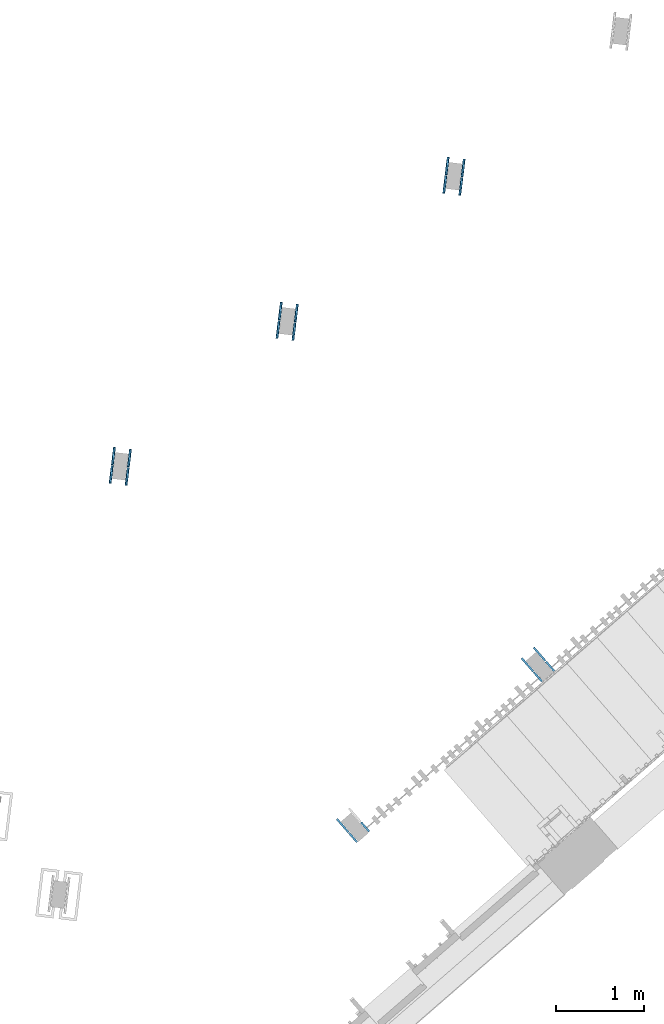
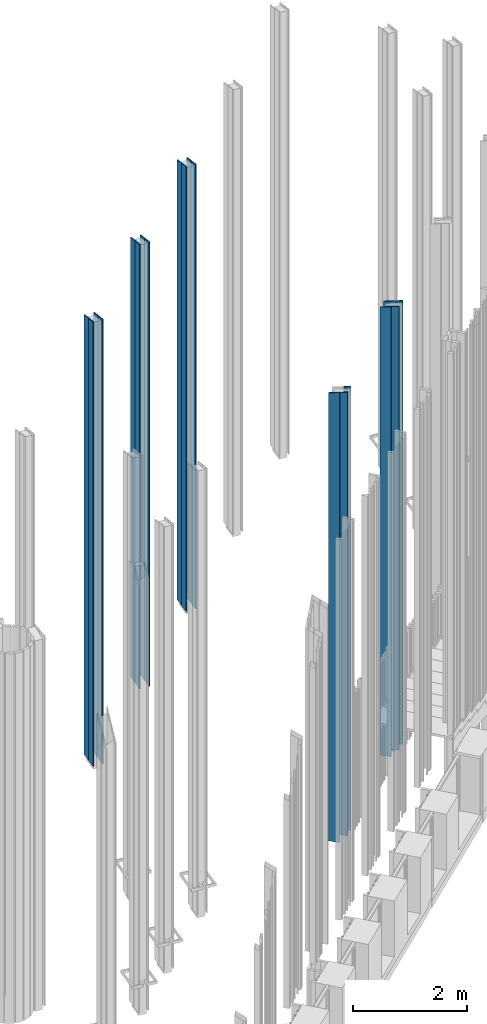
# One storey, part 48 of 390: 19 discrete accessories.
"""IFC2X3 building model written with IfcOpenShell, lengths in millimetres."""

from ifc_helpers import new_model, entity, si_unit, converted_unit, derived_unit, money_unit, direction, frame, origin_with_axes, place, context, subcontext, project, spatial, faceted_brep, source, transform, mapped, material, type_object, element, save


model = new_model("IFC2X3")

# Units and contexts
model_context = context("Model", 3, precision=1e-05, world=origin_with_axes(), true_north=direction((0.0, 1.0)))
body_context = subcontext(model_context, "Body", "Model", "MODEL_VIEW")
ifc_project = project(units=[si_unit("LENGTHUNIT", "METRE", prefix="MILLI"), si_unit("AREAUNIT", "SQUARE_METRE"), si_unit("VOLUMEUNIT", "CUBIC_METRE"), converted_unit("PLANEANGLEUNIT", "DEGREE", entity("IfcPlaneAngleMeasure", 0.0174532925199), si_unit("PLANEANGLEUNIT", "RADIAN"), dimensions=[0, 0, 0, 0, 0, 0, 0]), si_unit("SOLIDANGLEUNIT", "STERADIAN"), money_unit("EUR"), converted_unit("TIMEUNIT", "Year", entity("IfcTimeMeasure", 31556926.0), si_unit("TIMEUNIT", "SECOND"), dimensions=[0, 0, 1, 0, 0, 0, 0]), si_unit("MASSUNIT", "GRAM", prefix="KILO"), si_unit("THERMODYNAMICTEMPERATUREUNIT", "DEGREE_CELSIUS"), si_unit("LUMINOUSINTENSITYUNIT", "LUMEN"), si_unit("ENERGYUNIT", "JOULE", prefix="MEGA"), derived_unit("THERMALCONDUCTANCEUNIT", [(si_unit("POWERUNIT", "WATT"), 1), (si_unit("LENGTHUNIT", "METRE"), -1), (si_unit("THERMODYNAMICTEMPERATUREUNIT", "KELVIN"), -1)]), derived_unit("SPECIFICHEATCAPACITYUNIT", [(si_unit("ENERGYUNIT", "JOULE"), 1), (si_unit("MASSUNIT", "GRAM", prefix="KILO"), -1), (si_unit("THERMODYNAMICTEMPERATUREUNIT", "KELVIN"), -1)]), derived_unit("MASSDENSITYUNIT", [(si_unit("MASSUNIT", "GRAM", prefix="KILO"), 1), (si_unit("VOLUMEUNIT", "CUBIC_METRE"), -1)])], contexts=[model_context])

# Site, building, storey
site_placement = place(None, origin_with_axes())
site = spatial("IfcSite", under=ifc_project, at=site_placement, Name="Site", CompositionType="ELEMENT")
building_placement = place(site_placement, origin_with_axes())
building = spatial("IfcBuilding", under=site, at=building_placement, Name="Building", CompositionType="ELEMENT")
storey_placement = place(building_placement, origin_with_axes())
storey = spatial("IfcBuildingStorey", under=building, at=storey_placement, Name="1 korrus", CompositionType="ELEMENT", Elevation=0.0)

# Discrete accessories
ifc_material = material(Name="GENEERILINE - VÄLINE VOODER")
discrete_accessory_type = type_object("IfcDiscreteAccessoryType", Name="GENEERILINE - VÄLINE VOODER")
shared_shape_1 = source(origin_with_axes(), body_context, "Body", "Brep", [
    faceted_brep([(162190.360855, 119453.798876, 100.0), (162190.360855, 119453.798876, 9600.0), (162168.524839, 119456.480002, 9600.0), (162168.524839, 119456.480002, 100.0), (162214.734723, 119652.308107, 100.0), (162214.734723, 119652.308107, 9546.41016151), (162192.898708, 119654.989232, 9546.41016151), (162192.898708, 119654.989232, 100.0)], [[[0, 1, 2, 3]], [[1, 0, 4, 5]], [[2, 1, 5, 6]], [[3, 2, 6, 7]], [[0, 3, 7, 4]], [[7, 6, 5, 4]]]),
])
for number, where, z_axis, x_axis in (
    (1, (-3773.54790084, -3280.29514527, 0.0), (0.0, 0.0, 1.0), (1.0, 0.0, 0.0)),
    (2, (-5660.32185134, -4920.44271781, 0.0), (0.0, 0.0, 1.0), (1.0, 0.0, 0.0)),
    (3, (-7547.09580183, -6560.59029036, 0.0), (0.0, 0.0, 1.0), (1.0, 0.0, 0.0)),
):
    element("IfcDiscreteAccessory", number, at=place(storey_placement, frame(where, z_axis=z_axis, x_axis=x_axis)), inside=storey, type_object=discrete_accessory_type, material=ifc_material, Name="Päikesevarjestuspost", context=body_context, shape_type="MappedRepresentation", body=[
        mapped(shared_shape_1, transform((0.0, 0.0, 0.0))),
    ])
shared_shape_2 = source(origin_with_axes(), body_context, "Body", "Brep", [
    faceted_brep([(162194.117401, 119664.914694, 100.0), (162215.953417, 119662.233568, 100.0), (162215.953417, 119662.233568, 9543.73066959), (162194.117401, 119664.914694, 9543.73066959), (162218.49127, 119863.423924, 100.0), (162240.327285, 119860.742798, 100.0), (162240.327285, 119860.742798, 9490.1408311), (162218.49127, 119863.423924, 9490.1408311)], [[[0, 1, 2, 3]], [[1, 0, 4, 5]], [[2, 1, 5, 6]], [[3, 2, 6, 7]], [[0, 3, 7, 4]], [[4, 7, 6, 5]]]),
])
for number, where, z_axis, x_axis in (
    (4, (-3773.54790084, -3280.29514527, 0.0), (0.0, 0.0, 1.0), (1.0, 0.0, 0.0)),
    (5, (-5660.32185134, -4920.44271781, 0.0), (0.0, 0.0, 1.0), (1.0, 0.0, 0.0)),
    (6, (-7547.09580183, -6560.59029036, 0.0), (0.0, 0.0, 1.0), (1.0, 0.0, 0.0)),
):
    element("IfcDiscreteAccessory", number, at=place(storey_placement, frame(where, z_axis=z_axis, x_axis=x_axis)), inside=storey, type_object=discrete_accessory_type, material=ifc_material, Name="Päikesevarjestuspost", context=body_context, shape_type="MappedRepresentation", body=[
        mapped(shared_shape_2, transform((0.0, 0.0, 0.0))),
    ])
shared_shape_3 = source(origin_with_axes(), body_context, "Body", "Brep", [
    faceted_brep([(-162194.117401, 119664.914694, 100.0), (-162194.117401, 119664.914694, 9543.73066959), (-162215.953417, 119662.233568, 9543.73066959), (-162215.953417, 119662.233568, 100.0), (-162218.49127, 119863.423924, 100.0), (-162218.49127, 119863.423924, 9490.1408311), (-162240.327285, 119860.742798, 9490.1408311), (-162240.327285, 119860.742798, 100.0)], [[[0, 1, 2, 3]], [[0, 4, 5, 1]], [[1, 5, 6, 2]], [[2, 6, 7, 3]], [[3, 7, 4, 0]], [[4, 7, 6, 5]]]),
])
for number, where, z_axis, x_axis in (
    (7, (287049.744884, -38988.9054255, 0.0), (0.0, 0.0, 1.0), (0.970295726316, -0.241921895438, 0.0)),
    (8, (285162.970933, -40629.0529981, 0.0), (0.0, 0.0, 1.0), (0.970295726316, -0.241921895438, 0.0)),
    (9, (283276.196983, -42269.2005706, 0.0), (0.0, 0.0, 1.0), (0.970295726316, -0.241921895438, 0.0)),
):
    element("IfcDiscreteAccessory", number, at=place(storey_placement, frame(where, z_axis=z_axis, x_axis=x_axis)), inside=storey, type_object=discrete_accessory_type, material=ifc_material, Name="Päikesevarjestuspost", context=body_context, shape_type="MappedRepresentation", body=[
        mapped(shared_shape_3, transform((0.0, 0.0, 0.0))),
    ])
shared_shape_4 = source(origin_with_axes(), body_context, "Body", "Brep", [
    faceted_brep([(-162190.360855, 119453.798876, 100.0), (-162168.524839, 119456.480002, 100.0), (-162168.524839, 119456.480002, 9600.0), (-162190.360855, 119453.798876, 9600.0), (-162214.734723, 119652.308107, 100.0), (-162192.898708, 119654.989232, 100.0), (-162192.898708, 119654.989232, 9546.41016151), (-162214.734723, 119652.308107, 9546.41016151)], [[[0, 1, 2, 3]], [[0, 4, 5, 1]], [[1, 5, 6, 2]], [[2, 6, 7, 3]], [[3, 7, 4, 0]], [[5, 4, 7, 6]]]),
])
for number, where, z_axis, x_axis in (
    (10, (287049.744884, -38988.9054255, 0.0), (0.0, 0.0, 1.0), (0.970295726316, -0.241921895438, 0.0)),
    (11, (285162.970933, -40629.0529981, 0.0), (0.0, 0.0, 1.0), (0.970295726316, -0.241921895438, 0.0)),
    (12, (283276.196983, -42269.2005706, 0.0), (0.0, 0.0, 1.0), (0.970295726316, -0.241921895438, 0.0)),
):
    element("IfcDiscreteAccessory", number, at=place(storey_placement, frame(where, z_axis=z_axis, x_axis=x_axis)), inside=storey, type_object=discrete_accessory_type, material=ifc_material, Name="Päikesevarjestuspost", context=body_context, shape_type="MappedRepresentation", body=[
        mapped(shared_shape_4, transform((0.0, 0.0, 0.0))),
    ])
shared_shape_5 = source(origin_with_axes(), body_context, "Body", "Brep", [
    faceted_brep([(-162214.734723, 119652.308107, 100.0), (-162197.673015, 119513.351645, 100.0), (-162197.673015, 119513.351645, 9583.92304846), (-162214.734723, 119652.308107, 9546.41016151), (-162192.898708, 119654.989232, 100.0), (-162175.837, 119516.032771, 100.0), (-162175.837, 119516.032771, 9583.92304846), (-162192.898708, 119654.989232, 9546.41016151)], [[[0, 1, 2, 3]], [[1, 0, 4, 5]], [[6, 2, 1, 5]], [[3, 2, 6, 7]], [[0, 3, 7, 4]], [[5, 4, 7, 6]]]),
])
for number, where, z_axis, x_axis in (
    (13, (360943.952196, 102384.143028, 0.0), (0.0, 0.0, 1.0), (0.829037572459, 0.559192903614, 0.0)),
    (14, (358853.406659, 100566.859517, 0.0), (0.0, 0.0, 1.0), (0.829037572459, 0.559192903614, 0.0)),
):
    element("IfcDiscreteAccessory", number, at=place(storey_placement, frame(where, z_axis=z_axis, x_axis=x_axis)), inside=storey, type_object=discrete_accessory_type, material=ifc_material, Name="Päikesevarjestuspost", context=body_context, shape_type="MappedRepresentation", body=[
        mapped(shared_shape_5, transform((0.0, 0.0, 0.0))),
    ])
shared_shape_6 = source(origin_with_axes(), body_context, "Body", "Brep", [
    faceted_brep([(162175.837, 119516.032771, 9583.92304846), (162175.837, 119516.032771, 100.0), (162197.673015, 119513.351645, 100.0), (162197.673015, 119513.351645, 9583.92304846), (162192.898708, 119654.989232, 100.0), (162192.898708, 119654.989232, 9546.41016151), (162214.734723, 119652.308107, 100.0), (162214.734723, 119652.308107, 9546.41016151)], [[[0, 1, 2, 3]], [[4, 1, 0, 5]], [[1, 4, 6, 2]], [[2, 6, 7, 3]], [[5, 0, 3, 7]], [[4, 5, 7, 6]]]),
])
for number, where, z_axis, x_axis in (
    (15, (139808.516998, -89845.9580855, 0.0), (0.0, 0.0, 1.0), (0.669130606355, 0.743144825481, 0.0)),
    (16, (137717.971461, -91663.241596, 0.0), (0.0, 0.0, 1.0), (0.669130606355, 0.743144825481, 0.0)),
):
    element("IfcDiscreteAccessory", number, at=place(storey_placement, frame(where, z_axis=z_axis, x_axis=x_axis)), inside=storey, type_object=discrete_accessory_type, material=ifc_material, Name="Päikesevarjestuspost", context=body_context, shape_type="MappedRepresentation", body=[
        mapped(shared_shape_6, transform((0.0, 0.0, 0.0))),
    ])
shared_shape_7 = source(origin_with_axes(), body_context, "Body", "Brep", [
    faceted_brep([(162194.117401, 119664.914694, -78.0534808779), (162215.953417, 119662.233568, -78.0534808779), (162215.953417, 119662.233568, 9543.73066959), (162194.117401, 119664.914694, 9543.73066959), (162218.49127, 119863.423924, -78.0534808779), (162240.327285, 119860.742798, -78.0534808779), (162240.327285, 119860.742798, 9490.1408311), (162218.49127, 119863.423924, 9490.1408311)], [[[0, 1, 2, 3]], [[1, 0, 4, 5]], [[2, 1, 5, 6]], [[3, 2, 6, 7]], [[0, 3, 7, 4]], [[4, 7, 6, 5]]]),
])
for number, where, z_axis, x_axis in (
    (17, (139808.516998, -89845.9580855, 0.0), (0.0, 0.0, 1.0), (0.669130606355, 0.743144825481, 0.0)),
    (18, (137717.971461, -91663.241596, 0.0), (0.0, 0.0, 1.0), (0.669130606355, 0.743144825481, 0.0)),
):
    element("IfcDiscreteAccessory", number, at=place(storey_placement, frame(where, z_axis=z_axis, x_axis=x_axis)), inside=storey, type_object=discrete_accessory_type, material=ifc_material, Name="Päikesevarjestuspost", context=body_context, shape_type="MappedRepresentation", body=[
        mapped(shared_shape_7, transform((0.0, 0.0, 0.0))),
    ])
shared_shape_8 = source(origin_with_axes(), body_context, "Body", "Brep", [
    faceted_brep([(-162240.327285, 119860.742798, 9490.1408311), (-162240.327285, 119860.742798, -78.0534808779), (-162215.953417, 119662.233568, -78.0534808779), (-162215.953417, 119662.233568, 9543.73066959), (-162218.49127, 119863.423924, -78.0534808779), (-162218.49127, 119863.423924, 9490.1408311), (-162194.117401, 119664.914694, -78.0534808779), (-162194.117401, 119664.914694, 9543.73066959)], [[[0, 1, 2, 3]], [[4, 1, 0, 5]], [[1, 4, 6, 2]], [[2, 6, 7, 3]], [[5, 0, 3, 7]], [[6, 4, 5, 7]]]),
])
discrete_accessory_placement = place(storey_placement, frame((360943.952196, 102384.143028, 0.0), z_axis=(0.0, 0.0, 1.0), x_axis=(0.829037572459, 0.559192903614, 0.0)))
element("IfcDiscreteAccessory", 19, at=discrete_accessory_placement, inside=storey, type_object=discrete_accessory_type, material=ifc_material, Name="Päikesevarjestuspost", context=body_context, shape_type="MappedRepresentation", body=[
    mapped(shared_shape_8, transform((0.0, 0.0, 0.0))),
])

save(model, "model.ifc")
